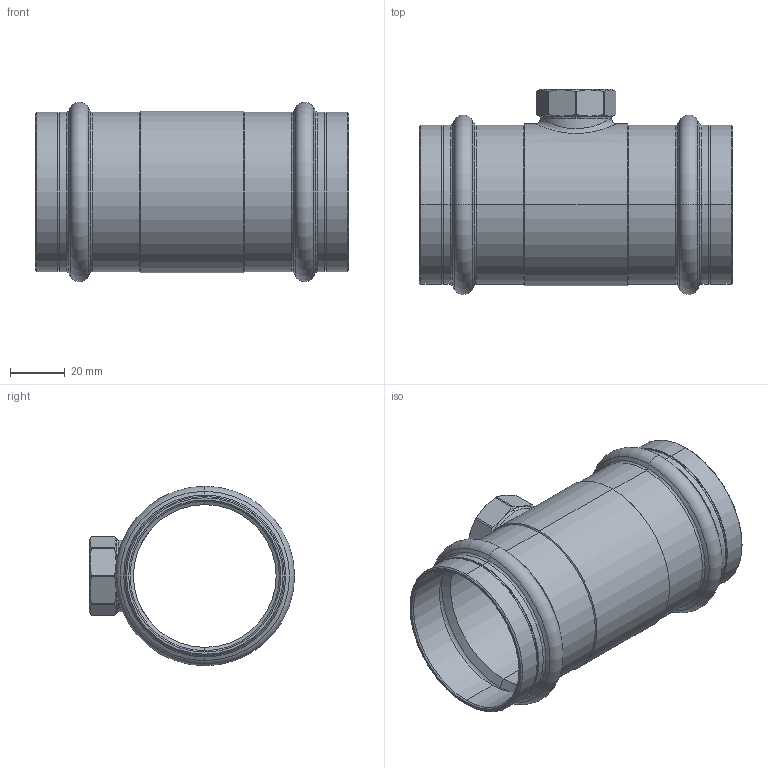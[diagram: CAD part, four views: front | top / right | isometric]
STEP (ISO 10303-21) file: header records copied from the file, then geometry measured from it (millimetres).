
FILE_DESCRIPTION (( 'STEP AP203' ), '1' );
FILE_NAME ('SP4130G Ø54 1-2 54.STEP', '2017-04-28T09:13:47', ( '' ), ( '' ), 'SwSTEP 2.0', 'SolidWorks 2016', '' );
FILE_SCHEMA (( 'CONFIG_CONTROL_DESIGN' ));
Length unit declared in the file: millimetre
Products named in the file (1): SP4130G Ø54 1-2 54
Bounding box: 114 x 74.7 x 65.4 mm (x, y, z)
Volume: 51323.1 mm3; surface area: 46323 mm2
Topology: 1 solids, 1 shells, 128 faces, 280 edges, 161 vertices
Faces by surface type: cylinder 44, cone 43, torus 18, plane 17, bspline 6
Entity records: 4594 total; most frequent: CARTESIAN_POINT 1691, DIRECTION 647, ORIENTED_EDGE 560, AXIS2_PLACEMENT_3D 281, EDGE_CURVE 280, VERTEX_POINT 161, CIRCLE 158, EDGE_LOOP 139
